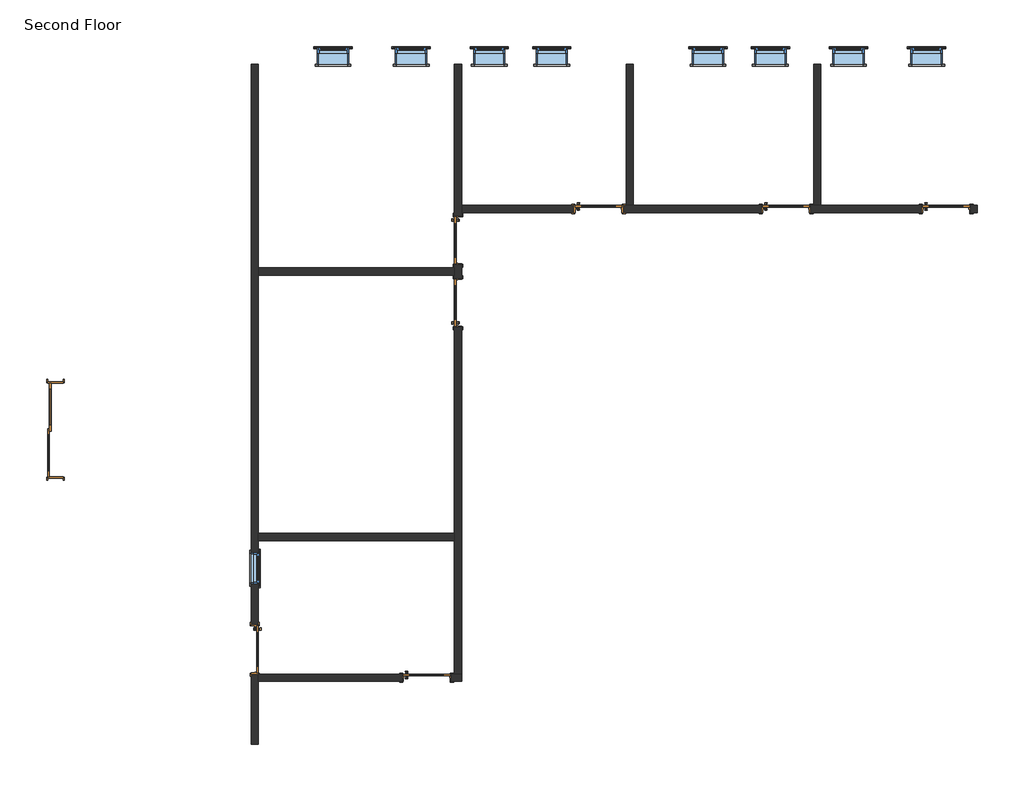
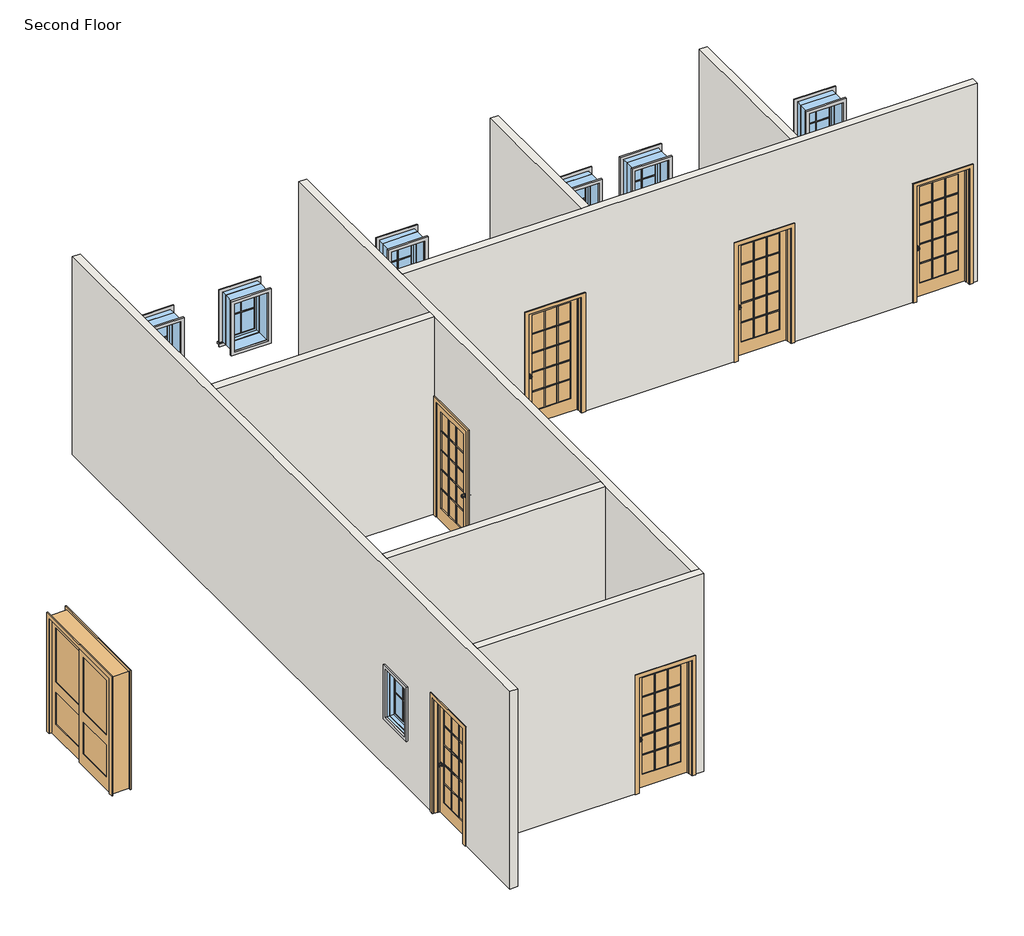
# One storey: 27 proxies, 9 windows, 8 doors, 8 walls.
"""IFC4 building model written with IfcOpenShell, lengths in millimetres."""

from ifc_helpers import new_model, si_unit, frame, origin, place, context, project, spatial, polyline, outline, extrude, faceted_brep, transform, mapped, element, save
from components import muntin_pattern_2x2_muntin_pattern_2x2_cf4092f1, muntin_pattern_2x2_muntin_pattern_2x2_49143b38, trim_window_exterior_flat_with_sill_a665a915, trim_window_exterior_flat_with_sill_4c72db77, trim_window_interior_flat_picture_frame_d485c387, trim_window_interior_flat_picture_frame_dfd23ff3, door_956c32c9, door_918c180d, door_79dd3e86, window_d7bc73cd, window_8e02f281, window_2fd3c40a

model = new_model("IFC4")

# Units and contexts
model_context = context("Model", 3, world=origin())
ifc_project = project(units=[si_unit("LENGTHUNIT", "METRE", prefix="MILLI")], contexts=[model_context])

# Site, building, storey
site = spatial("IfcSite", under=ifc_project)
building = spatial("IfcBuilding", under=site)
storey = spatial("IfcBuildingStorey", under=building, Name="Second Floor", Elevation=7315.2)

# Proxies
placement = place(None, origin())
muntin_pattern_2x2_muntin_pattern_2x2_shape = muntin_pattern_2x2_muntin_pattern_2x2_cf4092f1(model_context)
element("IfcBuildingElementProxy", 1, Name="Muntin Pattern_2x2 : Muntin Pattern_2x2", ObjectType="Muntin Pattern_2x2 : Muntin Pattern_2x2", at=placement, inside=storey, context=model_context, shape_type="MappedRepresentation", body=[
    mapped(muntin_pattern_2x2_muntin_pattern_2x2_shape, transform((-14168.6597136, 1858.8705992, 8299.45), x_axis=(0.0, -1.0, 0.0), y_axis=(1.0, 0.0, 0.0), z_axis=(0.0, 0.0, 1.0))),
])
element("IfcBuildingElementProxy", 2, Name="Muntin Pattern_2x2 : Muntin Pattern_2x2", ObjectType="Muntin Pattern_2x2 : Muntin Pattern_2x2", at=placement, inside=storey, context=model_context, shape_type="MappedRepresentation", body=[
    mapped(muntin_pattern_2x2_muntin_pattern_2x2_shape, transform((-1122.5847136, 11991.8830992, 8299.45), x_axis=(1.0, 0.0, 0.0), y_axis=(0.0, 1.0, 0.0), z_axis=(0.0, 0.0, 1.0))),
])
element("IfcBuildingElementProxy", 3, Name="Muntin Pattern_2x2 : Muntin Pattern_2x2", ObjectType="Muntin Pattern_2x2 : Muntin Pattern_2x2", at=placement, inside=storey, context=model_context, shape_type="MappedRepresentation", body=[
    mapped(muntin_pattern_2x2_muntin_pattern_2x2_shape, transform((-2646.5847136, 11991.8830992, 8299.45), x_axis=(1.0, 0.0, 0.0), y_axis=(0.0, 1.0, 0.0), z_axis=(0.0, 0.0, 1.0))),
])
element("IfcBuildingElementProxy", 4, Name="Muntin Pattern_2x2 : Muntin Pattern_2x2", ObjectType="Muntin Pattern_2x2 : Muntin Pattern_2x2", at=placement, inside=storey, context=model_context, shape_type="MappedRepresentation", body=[
    mapped(muntin_pattern_2x2_muntin_pattern_2x2_shape, transform((-4170.5847136, 11991.8830992, 8299.45), x_axis=(1.0, 0.0, 0.0), y_axis=(0.0, 1.0, 0.0), z_axis=(0.0, 0.0, 1.0))),
])
element("IfcBuildingElementProxy", 5, Name="Muntin Pattern_2x2 : Muntin Pattern_2x2", ObjectType="Muntin Pattern_2x2 : Muntin Pattern_2x2", at=placement, inside=storey, context=model_context, shape_type="MappedRepresentation", body=[
    mapped(muntin_pattern_2x2_muntin_pattern_2x2_shape, transform((-5389.7847136, 11991.8830992, 8299.45), x_axis=(1.0, 0.0, 0.0), y_axis=(0.0, 1.0, 0.0), z_axis=(0.0, 0.0, 1.0))),
])
muntin_pattern_2x2_muntin_pattern_2x2_2_shape = muntin_pattern_2x2_muntin_pattern_2x2_49143b38(model_context)
element("IfcBuildingElementProxy", 6, Name="Muntin Pattern_2x2 : Muntin Pattern_2x2", ObjectType="Muntin Pattern_2x2 : Muntin Pattern_2x2", at=placement, inside=storey, context=model_context, shape_type="MappedRepresentation", body=[
    mapped(muntin_pattern_2x2_muntin_pattern_2x2_2_shape, transform((-12704.9847136, 11991.8830992, 8299.45), x_axis=(-1.0, 0.0, 0.0), y_axis=(0.0, -1.0, 0.0), z_axis=(0.0, 0.0, 1.0))),
])
element("IfcBuildingElementProxy", 7, Name="Muntin Pattern_2x2 : Muntin Pattern_2x2", ObjectType="Muntin Pattern_2x2 : Muntin Pattern_2x2", at=placement, inside=storey, context=model_context, shape_type="MappedRepresentation", body=[
    mapped(muntin_pattern_2x2_muntin_pattern_2x2_2_shape, transform((-11180.9847136, 11991.8830992, 8299.45), x_axis=(-1.0, 0.0, 0.0), y_axis=(0.0, -1.0, 0.0), z_axis=(0.0, 0.0, 1.0))),
])
element("IfcBuildingElementProxy", 8, Name="Muntin Pattern_2x2 : Muntin Pattern_2x2", ObjectType="Muntin Pattern_2x2 : Muntin Pattern_2x2", at=placement, inside=storey, context=model_context, shape_type="MappedRepresentation", body=[
    mapped(muntin_pattern_2x2_muntin_pattern_2x2_2_shape, transform((-9656.9847136, 11991.8830992, 8299.45), x_axis=(-1.0, 0.0, 0.0), y_axis=(0.0, -1.0, 0.0), z_axis=(0.0, 0.0, 1.0))),
])
element("IfcBuildingElementProxy", 9, Name="Muntin Pattern_2x2 : Muntin Pattern_2x2", ObjectType="Muntin Pattern_2x2 : Muntin Pattern_2x2", at=placement, inside=storey, context=model_context, shape_type="MappedRepresentation", body=[
    mapped(muntin_pattern_2x2_muntin_pattern_2x2_2_shape, transform((-8437.7847136, 11991.8830992, 8299.45), x_axis=(-1.0, 0.0, 0.0), y_axis=(0.0, -1.0, 0.0), z_axis=(0.0, 0.0, 1.0))),
])
trim_window_exterior_flat_with_sill_shape = trim_window_exterior_flat_with_sill_a665a915(model_context)
element("IfcBuildingElementProxy", 10, Name="Trim-Window-Exterior-Flat : with Sill", ObjectType="Trim-Window-Exterior-Flat : with Sill", at=placement, inside=storey, context=model_context, shape_type="MappedRepresentation", body=[
    mapped(trim_window_exterior_flat_with_sill_shape, transform((-14159.1347136, 1858.8705992, 9144.0), x_axis=(0.0, 1.0, 0.0), y_axis=(0.0, 0.0, 1.0), z_axis=(1.0, 0.0, 0.0))),
])
element("IfcBuildingElementProxy", 11, Name="Trim-Window-Exterior-Flat : with Sill", ObjectType="Trim-Window-Exterior-Flat : with Sill", at=placement, inside=storey, context=model_context, shape_type="MappedRepresentation", body=[
    mapped(trim_window_exterior_flat_with_sill_shape, transform((-1122.5847136, 12001.4080992, 9144.0), x_axis=(-1.0, 0.0, 0.0), y_axis=(0.0, 0.0, 1.0), z_axis=(0.0, 1.0, 0.0))),
])
element("IfcBuildingElementProxy", 12, Name="Trim-Window-Exterior-Flat : with Sill", ObjectType="Trim-Window-Exterior-Flat : with Sill", at=placement, inside=storey, context=model_context, shape_type="MappedRepresentation", body=[
    mapped(trim_window_exterior_flat_with_sill_shape, transform((-2646.5847136, 12001.4080992, 9144.0), x_axis=(-1.0, 0.0, 0.0), y_axis=(0.0, 0.0, 1.0), z_axis=(0.0, 1.0, 0.0))),
])
element("IfcBuildingElementProxy", 13, Name="Trim-Window-Exterior-Flat : with Sill", ObjectType="Trim-Window-Exterior-Flat : with Sill", at=placement, inside=storey, context=model_context, shape_type="MappedRepresentation", body=[
    mapped(trim_window_exterior_flat_with_sill_shape, transform((-4170.5847136, 12001.4080992, 9144.0), x_axis=(-1.0, 0.0, 0.0), y_axis=(0.0, 0.0, 1.0), z_axis=(0.0, 1.0, 0.0))),
])
element("IfcBuildingElementProxy", 14, Name="Trim-Window-Exterior-Flat : with Sill", ObjectType="Trim-Window-Exterior-Flat : with Sill", at=placement, inside=storey, context=model_context, shape_type="MappedRepresentation", body=[
    mapped(trim_window_exterior_flat_with_sill_shape, transform((-5389.7847136, 12001.4080992, 9144.0), x_axis=(-1.0, 0.0, 0.0), y_axis=(0.0, 0.0, 1.0), z_axis=(0.0, 1.0, 0.0))),
])
trim_window_exterior_flat_with_sill_2_shape = trim_window_exterior_flat_with_sill_4c72db77(model_context)
element("IfcBuildingElementProxy", 15, Name="Trim-Window-Exterior-Flat : with Sill", ObjectType="Trim-Window-Exterior-Flat : with Sill", at=placement, inside=storey, context=model_context, shape_type="MappedRepresentation", body=[
    mapped(trim_window_exterior_flat_with_sill_2_shape, transform((-12704.9847136, 12001.4080992, 9144.0), x_axis=(1.0, 0.0, 0.0), y_axis=(0.0, 0.0, -1.0), z_axis=(0.0, 1.0, 0.0))),
])
element("IfcBuildingElementProxy", 16, Name="Trim-Window-Exterior-Flat : with Sill", ObjectType="Trim-Window-Exterior-Flat : with Sill", at=placement, inside=storey, context=model_context, shape_type="MappedRepresentation", body=[
    mapped(trim_window_exterior_flat_with_sill_2_shape, transform((-11180.9847136, 12001.4080992, 9144.0), x_axis=(1.0, 0.0, 0.0), y_axis=(0.0, 0.0, -1.0), z_axis=(0.0, 1.0, 0.0))),
])
element("IfcBuildingElementProxy", 17, Name="Trim-Window-Exterior-Flat : with Sill", ObjectType="Trim-Window-Exterior-Flat : with Sill", at=placement, inside=storey, context=model_context, shape_type="MappedRepresentation", body=[
    mapped(trim_window_exterior_flat_with_sill_2_shape, transform((-9656.9847136, 12001.4080992, 9144.0), x_axis=(1.0, 0.0, 0.0), y_axis=(0.0, 0.0, -1.0), z_axis=(0.0, 1.0, 0.0))),
])
element("IfcBuildingElementProxy", 18, Name="Trim-Window-Exterior-Flat : with Sill", ObjectType="Trim-Window-Exterior-Flat : with Sill", at=placement, inside=storey, context=model_context, shape_type="MappedRepresentation", body=[
    mapped(trim_window_exterior_flat_with_sill_2_shape, transform((-8437.7847136, 12001.4080992, 9144.0), x_axis=(1.0, 0.0, 0.0), y_axis=(0.0, 0.0, -1.0), z_axis=(0.0, 1.0, 0.0))),
])
trim_window_interior_flat_picture_frame_shape = trim_window_interior_flat_picture_frame_d485c387(model_context)
element("IfcBuildingElementProxy", 19, Name="Trim-Window-Interior-Flat : Picture Frame", ObjectType="Trim-Window-Interior-Flat : Picture Frame", at=placement, inside=storey, context=model_context, shape_type="MappedRepresentation", body=[
    mapped(trim_window_interior_flat_picture_frame_shape, transform((-14298.8347136, 1858.8705992, 9144.0), x_axis=(0.0, -1.0, 0.0), y_axis=(0.0, 0.0, 1.0), z_axis=(-1.0, 0.0, 0.0))),
])
element("IfcBuildingElementProxy", 20, Name="Trim-Window-Interior-Flat : Picture Frame", ObjectType="Trim-Window-Interior-Flat : Picture Frame", at=placement, inside=storey, context=model_context, shape_type="MappedRepresentation", body=[
    mapped(trim_window_interior_flat_picture_frame_shape, transform((-1122.5847136, 11690.2580992, 9144.0), x_axis=(1.0, 0.0, 0.0), y_axis=(0.0, 0.0, 1.0), z_axis=(0.0, -1.0, 0.0))),
])
element("IfcBuildingElementProxy", 21, Name="Trim-Window-Interior-Flat : Picture Frame", ObjectType="Trim-Window-Interior-Flat : Picture Frame", at=placement, inside=storey, context=model_context, shape_type="MappedRepresentation", body=[
    mapped(trim_window_interior_flat_picture_frame_shape, transform((-2646.5847136, 11690.2580992, 9144.0), x_axis=(1.0, 0.0, 0.0), y_axis=(0.0, 0.0, 1.0), z_axis=(0.0, -1.0, 0.0))),
])
element("IfcBuildingElementProxy", 22, Name="Trim-Window-Interior-Flat : Picture Frame", ObjectType="Trim-Window-Interior-Flat : Picture Frame", at=placement, inside=storey, context=model_context, shape_type="MappedRepresentation", body=[
    mapped(trim_window_interior_flat_picture_frame_shape, transform((-4170.5847136, 11690.2580992, 9144.0), x_axis=(1.0, 0.0, 0.0), y_axis=(0.0, 0.0, 1.0), z_axis=(0.0, -1.0, 0.0))),
])
element("IfcBuildingElementProxy", 23, Name="Trim-Window-Interior-Flat : Picture Frame", ObjectType="Trim-Window-Interior-Flat : Picture Frame", at=placement, inside=storey, context=model_context, shape_type="MappedRepresentation", body=[
    mapped(trim_window_interior_flat_picture_frame_shape, transform((-5389.7847136, 11690.2580992, 9144.0), x_axis=(1.0, 0.0, 0.0), y_axis=(0.0, 0.0, 1.0), z_axis=(0.0, -1.0, 0.0))),
])
trim_window_interior_flat_picture_frame_2_shape = trim_window_interior_flat_picture_frame_dfd23ff3(model_context)
element("IfcBuildingElementProxy", 24, Name="Trim-Window-Interior-Flat : Picture Frame", ObjectType="Trim-Window-Interior-Flat : Picture Frame", at=placement, inside=storey, context=model_context, shape_type="MappedRepresentation", body=[
    mapped(trim_window_interior_flat_picture_frame_2_shape, transform((-12704.9847136, 11690.2580992, 9144.0), x_axis=(-1.0, 0.0, 0.0), y_axis=(0.0, 0.0, -1.0), z_axis=(0.0, -1.0, 0.0))),
])
element("IfcBuildingElementProxy", 25, Name="Trim-Window-Interior-Flat : Picture Frame", ObjectType="Trim-Window-Interior-Flat : Picture Frame", at=placement, inside=storey, context=model_context, shape_type="MappedRepresentation", body=[
    mapped(trim_window_interior_flat_picture_frame_2_shape, transform((-11180.9847136, 11690.2580992, 9144.0), x_axis=(-1.0, 0.0, 0.0), y_axis=(0.0, 0.0, -1.0), z_axis=(0.0, -1.0, 0.0))),
])
element("IfcBuildingElementProxy", 26, Name="Trim-Window-Interior-Flat : Picture Frame", ObjectType="Trim-Window-Interior-Flat : Picture Frame", at=placement, inside=storey, context=model_context, shape_type="MappedRepresentation", body=[
    mapped(trim_window_interior_flat_picture_frame_2_shape, transform((-9656.9847136, 11690.2580992, 9144.0), x_axis=(-1.0, 0.0, 0.0), y_axis=(0.0, 0.0, -1.0), z_axis=(0.0, -1.0, 0.0))),
])
element("IfcBuildingElementProxy", 27, Name="Trim-Window-Interior-Flat : Picture Frame", ObjectType="Trim-Window-Interior-Flat : Picture Frame", at=placement, inside=storey, context=model_context, shape_type="MappedRepresentation", body=[
    mapped(trim_window_interior_flat_picture_frame_2_shape, transform((-8437.7847136, 11690.2580992, 9144.0), x_axis=(-1.0, 0.0, 0.0), y_axis=(0.0, 0.0, -1.0), z_axis=(0.0, -1.0, 0.0))),
])

# Doors
door_shape = door_956c32c9(model_context)
element("IfcDoor", 28, ObjectType="Door-Interior-Double-Sliding-2_Panel-Wood : 72\" x 84\"", at=placement, inside=storey, context=model_context, shape_type="MappedRepresentation", body=[
    mapped(door_shape, transform((-18123.1222136, 4559.7577587, 7315.2), x_axis=(0.0, 1.0, 0.0), y_axis=(-1.0, 0.0, 0.0), z_axis=(0.0, 0.0, 1.0))),
])
door_2_shape = door_918c180d(model_context)
element("IfcDoor", 29, ObjectType="Door-Interior-Single-Full Glass-Wood : 36\" x 84\"", at=placement, inside=storey, context=model_context, shape_type="MappedRepresentation", body=[
    mapped(door_2_shape, transform((-14225.8097136, 277.7205992, 7315.2), x_axis=(0.0, -1.0, 0.0), y_axis=(1.0, 0.0, 0.0), z_axis=(0.0, 0.0, 1.0))),
])
element("IfcDoor", 30, ObjectType="Door-Interior-Single-Full Glass-Wood : 36\" x 84\"", at=placement, inside=storey, context=model_context, shape_type="MappedRepresentation", body=[
    mapped(door_2_shape, transform((-10269.7597136, 7040.4705992, 7315.2), x_axis=(0.0, 1.0, 0.0), y_axis=(-1.0, 0.0, 0.0), z_axis=(0.0, 0.0, 1.0))),
])
element("IfcDoor", 31, ObjectType="Door-Interior-Single-Full Glass-Wood : 36\" x 84\"", at=placement, inside=storey, context=model_context, shape_type="MappedRepresentation", body=[
    mapped(door_2_shape, transform((-7523.3847136, 8872.4455992, 7315.2), x_axis=(1.0, 0.0, 0.0), y_axis=(0.0, 1.0, 0.0), z_axis=(0.0, 0.0, 1.0))),
])
element("IfcDoor", 32, ObjectType="Door-Interior-Single-Full Glass-Wood : 36\" x 84\"", at=placement, inside=storey, context=model_context, shape_type="MappedRepresentation", body=[
    mapped(door_2_shape, transform((-3865.7847136, 8872.4455992, 7315.2), x_axis=(1.0, 0.0, 0.0), y_axis=(0.0, 1.0, 0.0), z_axis=(0.0, 0.0, 1.0))),
])
element("IfcDoor", 33, ObjectType="Door-Interior-Single-Full Glass-Wood : 36\" x 84\"", at=placement, inside=storey, context=model_context, shape_type="MappedRepresentation", body=[
    mapped(door_2_shape, transform((-739.9972136, 8872.4455992, 7315.2), x_axis=(1.0, 0.0, 0.0), y_axis=(0.0, 1.0, 0.0), z_axis=(0.0, 0.0, 1.0))),
])
element("IfcDoor", 34, ObjectType="Door-Interior-Single-Full Glass-Wood : 36\" x 84\"", at=placement, inside=storey, context=model_context, shape_type="MappedRepresentation", body=[
    mapped(door_2_shape, transform((-10876.1847136, -271.5544008, 7315.2), x_axis=(1.0, 0.0, 0.0), y_axis=(0.0, 1.0, 0.0), z_axis=(0.0, 0.0, 1.0))),
])
door_3_shape = door_79dd3e86(model_context)
element("IfcDoor", 35, ObjectType="Door-Interior-Single-Full Glass-Wood : 36\" x 84\"", at=placement, inside=storey, context=model_context, shape_type="MappedRepresentation", body=[
    mapped(door_3_shape, transform((-10269.7597136, 8259.6705992, 7315.2), x_axis=(0.0, -1.0, 0.0), y_axis=(1.0, 0.0, 0.0), z_axis=(0.0, 0.0, 1.0))),
])

# Walls
element("IfcWall", 36, ObjectType="Interior - 5 1/2\" Partition (1-hr)", at=placement, inside=storey, context=model_context, shape_type="Brep", body=[
    faceted_brep([(-14298.8347136, -1571.7169008, 10972.8), (-14298.8347136, 11690.2580992, 10972.8), (-14298.8347136, 11690.2580992, 7315.2), (-14298.8347136, 760.3205992, 7315.2), (-14298.8347136, 760.3205992, 9474.2), (-14298.8347136, -204.8794008, 9474.2), (-14298.8347136, -204.8794008, 7315.2), (-14298.8347136, -1571.7169008, 7315.2), (-14298.8347136, 1554.0705992, 9144.0), (-14298.8347136, 1554.0705992, 8229.6), (-14298.8347136, 2163.6705992, 8229.6), (-14298.8347136, 2163.6705992, 9144.0), (-14159.1347136, 11690.2580992, 10972.8), (-14159.1347136, 7719.9205992, 10972.8), (-14159.1347136, 7580.2205992, 10972.8), (-14159.1347136, 2538.3205992, 10972.8), (-14159.1347136, 2398.6205992, 10972.8), (-14159.1347136, -204.8794008, 10972.8), (-14159.1347136, -344.5794008, 10972.8), (-14159.1347136, -1571.7169008, 10972.8), (-14159.1347136, -1571.7169008, 7315.2), (-14159.1347136, -344.5794008, 7315.2), (-14159.1347136, -204.8794008, 7315.2), (-14159.1347136, -204.8794008, 9474.2), (-14159.1347136, 760.3205992, 9474.2), (-14159.1347136, 760.3205992, 7315.2), (-14159.1347136, 2398.6205992, 7315.2), (-14159.1347136, 2538.3205992, 7315.2), (-14159.1347136, 7580.2205992, 7315.2), (-14159.1347136, 7719.9205992, 7315.2), (-14159.1347136, 11690.2580992, 7315.2), (-14159.1347136, 1554.0705992, 9144.0), (-14159.1347136, 2163.6705992, 9144.0), (-14159.1347136, 2163.6705992, 8229.6), (-14159.1347136, 1554.0705992, 8229.6)], [[[0, 1, 2, 3, 4, 5, 6, 7], [8, 9, 10, 11]], [[12, 13, 14, 15, 16, 17, 18, 19, 20, 21, 22, 23, 24, 25, 26, 27, 28, 29, 30], [31, 32, 33, 34]], [[2, 30, 29, 28, 27, 26, 25, 3]], [[20, 7, 6, 22, 21]], [[1, 0, 19, 18, 17, 16, 15, 14, 13, 12]], [[5, 23, 22, 6]], [[23, 5, 4, 24]], [[24, 4, 3, 25]], [[9, 8, 31, 34]], [[10, 9, 34, 33]], [[11, 10, 33, 32]], [[8, 11, 32, 31]], [[2, 1, 12, 30]], [[0, 7, 20, 19]]]),
])
element("IfcWall", 37, ObjectType="Interior - 5 1/2\" Partition (1-hr)", at=placement, inside=storey, context=model_context, shape_type="Brep", body=[
    faceted_brep([(-10196.7347136, -344.5794008, 10972.8), (-14159.1347136, -344.5794008, 10972.8), (-14159.1347136, -344.5794008, 7315.2), (-11358.7847136, -344.5794008, 7315.2), (-11358.7847136, -344.5794008, 9474.2), (-10393.5847136, -344.5794008, 9474.2), (-10393.5847136, -344.5794008, 7315.2), (-10196.7347136, -344.5794008, 7315.2), (-14159.1347136, -204.8794008, 10972.8), (-10336.4347136, -204.8794008, 10972.8), (-10196.7347136, -204.8794008, 10972.8), (-10196.7347136, -204.8794008, 7315.2), (-10336.4347136, -204.8794008, 7315.2), (-10393.5847136, -204.8794008, 7315.2), (-10393.5847136, -204.8794008, 9474.2), (-11358.7847136, -204.8794008, 9474.2), (-11358.7847136, -204.8794008, 7315.2), (-14159.1347136, -204.8794008, 7315.2), (-14159.1347136, -204.8794008, 9474.2)], [[[0, 1, 2, 3, 4, 5, 6, 7]], [[8, 9, 10, 11, 12, 13, 14, 15, 16, 17, 18]], [[2, 17, 16, 3]], [[11, 7, 6, 13, 12]], [[1, 0, 10, 9, 8]], [[2, 1, 8, 18, 17]], [[0, 7, 11, 10]], [[5, 14, 13, 6]], [[14, 5, 4, 15]], [[15, 4, 3, 16]]]),
])
element("IfcWall", 38, ObjectType="Interior - 5 1/2\" Partition (1-hr)", at=placement, inside=storey, context=model_context, shape_type="Brep", body=[
    faceted_brep([(-10196.7347136, 11690.2580992, 10972.8), (-10196.7347136, 8939.1205992, 10972.8), (-10196.7347136, 8799.4205992, 10972.8), (-10196.7347136, -204.8794008, 10972.8), (-10196.7347136, -204.8794008, 7315.2), (-10196.7347136, 6557.8705992, 7315.2), (-10196.7347136, 6557.8705992, 9474.2), (-10196.7347136, 7523.0705992, 9474.2), (-10196.7347136, 7523.0705992, 7315.2), (-10196.7347136, 7777.0705992, 7315.2), (-10196.7347136, 7777.0705992, 9474.2), (-10196.7347136, 8742.2705992, 9474.2), (-10196.7347136, 8742.2705992, 7315.2), (-10196.7347136, 8799.4205992, 7315.2), (-10196.7347136, 8939.1205992, 7315.2), (-10196.7347136, 11690.2580992, 7315.2), (-10336.4347136, -204.8794008, 10972.8), (-10336.4347136, 2398.6205992, 10972.8), (-10336.4347136, 2538.3205992, 10972.8), (-10336.4347136, 7580.2205992, 10972.8), (-10336.4347136, 7719.9205992, 10972.8), (-10336.4347136, 11690.2580992, 10972.8), (-10336.4347136, 11690.2580992, 7315.2), (-10336.4347136, 8742.2705992, 7315.2), (-10336.4347136, 8742.2705992, 9474.2), (-10336.4347136, 7777.0705992, 9474.2), (-10336.4347136, 7777.0705992, 7315.2), (-10336.4347136, 7719.9205992, 7315.2), (-10336.4347136, 7580.2205992, 7315.2), (-10336.4347136, 7523.0705992, 7315.2), (-10336.4347136, 7523.0705992, 9474.2), (-10336.4347136, 6557.8705992, 9474.2), (-10336.4347136, 6557.8705992, 7315.2), (-10336.4347136, 2538.3205992, 7315.2), (-10336.4347136, 2398.6205992, 7315.2), (-10336.4347136, -204.8794008, 7315.2)], [[[0, 1, 2, 3, 4, 5, 6, 7, 8, 9, 10, 11, 12, 13, 14, 15]], [[16, 17, 18, 19, 20, 21, 22, 23, 24, 25, 26, 27, 28, 29, 30, 31, 32, 33, 34, 35]], [[4, 35, 34, 33, 32, 5]], [[8, 29, 28, 27, 26, 9]], [[22, 15, 14, 13, 12, 23]], [[3, 2, 1, 0, 21, 20, 19, 18, 17, 16]], [[4, 3, 16, 35]], [[7, 30, 29, 8]], [[30, 7, 6, 31]], [[31, 6, 5, 32]], [[25, 10, 9, 26]], [[10, 25, 24, 11]], [[11, 24, 23, 12]], [[0, 15, 22, 21]]]),
])
element("IfcWall", 39, ObjectType="Interior - 5 1/2\" Partition (1-hr)", at=placement, inside=storey, context=model_context, shape_type="Brep", body=[
    faceted_brep([(-10196.7347136, 8939.1205992, 10972.8), (-6983.6347136, 8939.1205992, 10972.8), (-6843.9347136, 8939.1205992, 10972.8), (-3326.0347136, 8939.1205992, 10972.8), (-3186.3347136, 8939.1205992, 10972.8), (-130.3972136, 8939.1205992, 10972.8), (-130.3972136, 8939.1205992, 7315.2), (-257.3972136, 8939.1205992, 7315.2), (-257.3972136, 8939.1205992, 9474.2), (-1222.5972136, 8939.1205992, 9474.2), (-1222.5972136, 8939.1205992, 7315.2), (-3186.3347136, 8939.1205992, 7315.2), (-3326.0347136, 8939.1205992, 7315.2), (-3383.1847136, 8939.1205992, 7315.2), (-3383.1847136, 8939.1205992, 9474.2), (-4348.3847136, 8939.1205992, 9474.2), (-4348.3847136, 8939.1205992, 7315.2), (-6843.9347136, 8939.1205992, 7315.2), (-6983.6347136, 8939.1205992, 7315.2), (-7040.7847136, 8939.1205992, 7315.2), (-7040.7847136, 8939.1205992, 9474.2), (-8005.9847136, 8939.1205992, 9474.2), (-8005.9847136, 8939.1205992, 7315.2), (-10196.7347136, 8939.1205992, 7315.2), (-130.3972136, 8799.4205992, 10972.8), (-10196.7347136, 8799.4205992, 10972.8), (-10196.7347136, 8799.4205992, 7315.2), (-8005.9847136, 8799.4205992, 7315.2), (-8005.9847136, 8799.4205992, 9474.2), (-7040.7847136, 8799.4205992, 9474.2), (-7040.7847136, 8799.4205992, 7315.2), (-4348.3847136, 8799.4205992, 7315.2), (-4348.3847136, 8799.4205992, 9474.2), (-3383.1847136, 8799.4205992, 9474.2), (-3383.1847136, 8799.4205992, 7315.2), (-1222.5972136, 8799.4205992, 7315.2), (-1222.5972136, 8799.4205992, 9474.2), (-257.3972136, 8799.4205992, 9474.2), (-257.3972136, 8799.4205992, 7315.2), (-130.3972136, 8799.4205992, 7315.2)], [[[0, 1, 2, 3, 4, 5, 6, 7, 8, 9, 10, 11, 12, 13, 14, 15, 16, 17, 18, 19, 20, 21, 22, 23]], [[24, 25, 26, 27, 28, 29, 30, 31, 32, 33, 34, 35, 36, 37, 38, 39]], [[26, 23, 22, 27]], [[30, 19, 18, 17, 16, 31]], [[34, 13, 12, 11, 10, 35]], [[6, 39, 38, 7]], [[5, 4, 3, 2, 1, 0, 25, 24]], [[0, 23, 26, 25]], [[29, 20, 19, 30]], [[20, 29, 28, 21]], [[21, 28, 27, 22]], [[33, 14, 13, 34]], [[14, 33, 32, 15]], [[15, 32, 31, 16]], [[37, 8, 7, 38]], [[8, 37, 36, 9]], [[9, 36, 35, 10]], [[6, 5, 24, 39]]]),
])
element("IfcWall", 40, ObjectType="Interior - 5 1/2\" Partition (1-hr)", at=placement, inside=storey, context=model_context, shape_type="SweptSolid", body=[
    extrude(outline(polyline([(-10336.4347136, 7580.2205992), (-14159.1347136, 7580.2205992), (-14159.1347136, 7719.9205992), (-10336.4347136, 7719.9205992), (-10336.4347136, 7580.2205992)])), frame((0.0, 0.0, 7315.2), z_axis=(0.0, 0.0, 1.0), x_axis=(1.0, 0.0, 0.0)), (0.0, 0.0, 1.0), 3657.6),
])
element("IfcWall", 41, ObjectType="Interior - 5 1/2\" Partition (1-hr)", at=placement, inside=storey, context=model_context, shape_type="SweptSolid", body=[
    extrude(outline(polyline([(-10336.4347136, 2398.6205992), (-14159.1347136, 2398.6205992), (-14159.1347136, 2538.3205992), (-10336.4347136, 2538.3205992), (-10336.4347136, 2398.6205992)])), frame((0.0, 0.0, 7315.2), z_axis=(0.0, 0.0, 1.0), x_axis=(1.0, 0.0, 0.0)), (0.0, 0.0, 1.0), 3657.6),
])
element("IfcWall", 42, ObjectType="Interior - 5 1/2\" Partition (1-hr)", at=placement, inside=storey, context=model_context, shape_type="SweptSolid", body=[
    extrude(outline(polyline([(-3326.0347136, 8939.1205992), (-3326.0347136, 11690.2580992), (-3186.3347136, 11690.2580992), (-3186.3347136, 8939.1205992), (-3326.0347136, 8939.1205992)])), frame((0.0, 0.0, 7315.2), z_axis=(0.0, 0.0, 1.0), x_axis=(1.0, 0.0, 0.0)), (0.0, 0.0, 1.0), 3657.6),
])
element("IfcWall", 43, ObjectType="Interior - 5 1/2\" Partition (1-hr)", at=placement, inside=storey, context=model_context, shape_type="SweptSolid", body=[
    extrude(outline(polyline([(-6983.6347136, 8939.1205992), (-6983.6347136, 11690.2580992), (-6843.9347136, 11690.2580992), (-6843.9347136, 8939.1205992), (-6983.6347136, 8939.1205992)])), frame((0.0, 0.0, 7315.2), z_axis=(0.0, 0.0, 1.0), x_axis=(1.0, 0.0, 0.0)), (0.0, 0.0, 1.0), 3657.6),
])

# Windows
window_shape = window_d7bc73cd(model_context)
element("IfcWindow", 44, ObjectType="Window-Awning-Single : 24\" x 36\"", at=placement, inside=storey, context=model_context, shape_type="MappedRepresentation", body=[
    mapped(window_shape, transform((-14228.9847136, 1858.8705992, 7315.2), x_axis=(0.0, -1.0, 0.0), y_axis=(1.0, 0.0, 0.0), z_axis=(0.0, 0.0, 1.0))),
])
window_2_shape = window_8e02f281(model_context)
element("IfcWindow", 45, ObjectType="Window-Awning-Single : 24\" x 36\"", at=placement, inside=storey, context=model_context, shape_type="MappedRepresentation", body=[
    mapped(window_2_shape, transform((-12704.9847136, 11845.8330992, 7315.2), x_axis=(-1.0, 0.0, 0.0), y_axis=(0.0, -1.0, 0.0), z_axis=(0.0, 0.0, 1.0))),
])
element("IfcWindow", 46, ObjectType="Window-Awning-Single : 24\" x 36\"", at=placement, inside=storey, context=model_context, shape_type="MappedRepresentation", body=[
    mapped(window_2_shape, transform((-11180.9847136, 11845.8330992, 7315.2), x_axis=(-1.0, 0.0, 0.0), y_axis=(0.0, -1.0, 0.0), z_axis=(0.0, 0.0, 1.0))),
])
element("IfcWindow", 47, ObjectType="Window-Awning-Single : 24\" x 36\"", at=placement, inside=storey, context=model_context, shape_type="MappedRepresentation", body=[
    mapped(window_2_shape, transform((-9656.9847136, 11845.8330992, 7315.2), x_axis=(-1.0, 0.0, 0.0), y_axis=(0.0, -1.0, 0.0), z_axis=(0.0, 0.0, 1.0))),
])
element("IfcWindow", 48, ObjectType="Window-Awning-Single : 24\" x 36\"", at=placement, inside=storey, context=model_context, shape_type="MappedRepresentation", body=[
    mapped(window_2_shape, transform((-8437.7847136, 11845.8330992, 7315.2), x_axis=(-1.0, 0.0, 0.0), y_axis=(0.0, -1.0, 0.0), z_axis=(0.0, 0.0, 1.0))),
])
window_3_shape = window_2fd3c40a(model_context)
element("IfcWindow", 49, ObjectType="Window-Awning-Single : 24\" x 36\"", at=placement, inside=storey, context=model_context, shape_type="MappedRepresentation", body=[
    mapped(window_3_shape, transform((-1122.5847136, 11845.8330992, 7315.2), x_axis=(1.0, 0.0, 0.0), y_axis=(0.0, 1.0, 0.0), z_axis=(0.0, 0.0, 1.0))),
])
element("IfcWindow", 50, ObjectType="Window-Awning-Single : 24\" x 36\"", at=placement, inside=storey, context=model_context, shape_type="MappedRepresentation", body=[
    mapped(window_3_shape, transform((-2646.5847136, 11845.8330992, 7315.2), x_axis=(1.0, 0.0, 0.0), y_axis=(0.0, 1.0, 0.0), z_axis=(0.0, 0.0, 1.0))),
])
element("IfcWindow", 51, ObjectType="Window-Awning-Single : 24\" x 36\"", at=placement, inside=storey, context=model_context, shape_type="MappedRepresentation", body=[
    mapped(window_3_shape, transform((-4170.5847136, 11845.8330992, 7315.2), x_axis=(1.0, 0.0, 0.0), y_axis=(0.0, 1.0, 0.0), z_axis=(0.0, 0.0, 1.0))),
])
element("IfcWindow", 52, ObjectType="Window-Awning-Single : 24\" x 36\"", at=placement, inside=storey, context=model_context, shape_type="MappedRepresentation", body=[
    mapped(window_3_shape, transform((-5389.7847136, 11845.8330992, 7315.2), x_axis=(1.0, 0.0, 0.0), y_axis=(0.0, 1.0, 0.0), z_axis=(0.0, 0.0, 1.0))),
])

save(model, "model.ifc")
